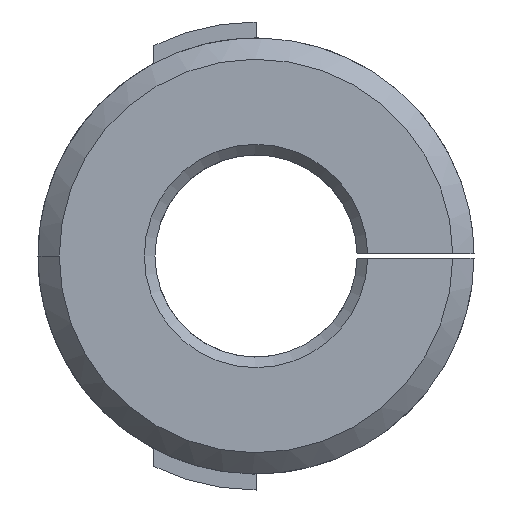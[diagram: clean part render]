
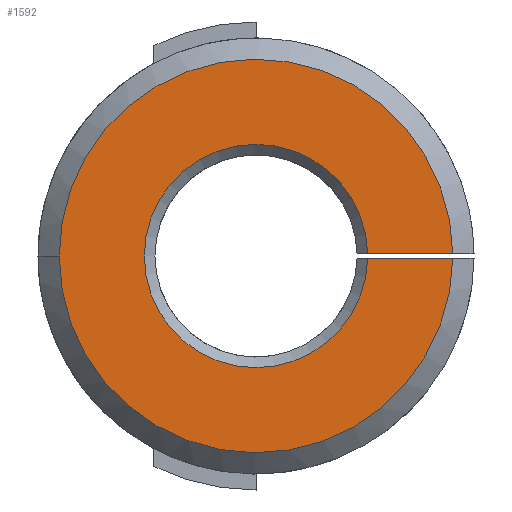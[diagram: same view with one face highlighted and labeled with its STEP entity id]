
A CAD part, front view. The second image highlights one B-rep face of the part: STEP entity #1592.
In plain terms, the highlighted planar face has unit normal (0, -1, 0).
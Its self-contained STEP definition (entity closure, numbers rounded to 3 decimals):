
#16 = VERTEX_POINT ( 'NONE', #286 ) ;
#66 = VECTOR ( 'NONE', #1170, 1000. ) ;
#88 = CARTESIAN_POINT ( 'NONE',  ( 9.25, 0., -0.1 ) ) ;
#95 = DIRECTION ( 'NONE',  ( 1., 0., 0. ) ) ;
#190 = EDGE_CURVE ( 'NONE', #305, #16, #1474, .T. ) ;
#232 = AXIS2_PLACEMENT_3D ( 'NONE', #696, #1579, #1086 ) ;
#246 = EDGE_LOOP ( 'NONE', ( #658, #1404, #800, #1091, #745 ) ) ;
#286 = CARTESIAN_POINT ( 'NONE',  ( -9.25, 0., 0. ) ) ;
#305 = VERTEX_POINT ( 'NONE', #1533 ) ;
#391 = EDGE_CURVE ( 'NONE', #509, #305, #448, .T. ) ;
#423 = PLANE ( 'NONE',  #1037 ) ;
#430 = CIRCLE ( 'NONE', #232, 5.25 ) ;
#448 = LINE ( 'NONE', #1283, #66 ) ;
#509 = VERTEX_POINT ( 'NONE', #1581 ) ;
#525 = FACE_OUTER_BOUND ( 'NONE', #246, .T. ) ;
#551 = CIRCLE ( 'NONE', #1391, 9.25 ) ;
#562 = CARTESIAN_POINT ( 'NONE',  ( 0., 0., 0. ) ) ;
#643 = AXIS2_PLACEMENT_3D ( 'NONE', #1232, #728, #95 ) ;
#658 = ORIENTED_EDGE ( 'NONE', *, *, #391, .T. ) ;
#677 = CARTESIAN_POINT ( 'NONE',  ( 0., 0., 0. ) ) ;
#696 = CARTESIAN_POINT ( 'NONE',  ( 0., 0., 0. ) ) ;
#698 = DIRECTION ( 'NONE',  ( 0., -1., 0. ) ) ;
#723 = CARTESIAN_POINT ( 'NONE',  ( 1., 0., -0.1 ) ) ;
#728 = DIRECTION ( 'NONE',  ( 0., -1., 0. ) ) ;
#731 = DIRECTION ( 'NONE',  ( -1., 0., 0. ) ) ;
#745 = ORIENTED_EDGE ( 'NONE', *, *, #872, .T. ) ;
#800 = ORIENTED_EDGE ( 'NONE', *, *, #807, .T. ) ;
#807 = EDGE_CURVE ( 'NONE', #16, #1210, #551, .T. ) ;
#872 = EDGE_CURVE ( 'NONE', #1218, #509, #430, .T. ) ;
#1037 = AXIS2_PLACEMENT_3D ( 'NONE', #562, #698, #1578 ) ;
#1047 = EDGE_CURVE ( 'NONE', #1210, #1218, #1489, .T. ) ;
#1086 = DIRECTION ( 'NONE',  ( 1., 0., 0. ) ) ;
#1091 = ORIENTED_EDGE ( 'NONE', *, *, #1047, .T. ) ;
#1170 = DIRECTION ( 'NONE',  ( 1., 0., 0. ) ) ;
#1210 = VERTEX_POINT ( 'NONE', #88 ) ;
#1218 = VERTEX_POINT ( 'NONE', #1394 ) ;
#1232 = CARTESIAN_POINT ( 'NONE',  ( 0., 0., 0. ) ) ;
#1283 = CARTESIAN_POINT ( 'NONE',  ( 12., 0., 0.1 ) ) ;
#1391 = AXIS2_PLACEMENT_3D ( 'NONE', #677, #1656, #1664 ) ;
#1394 = CARTESIAN_POINT ( 'NONE',  ( 5.249, 0., -0.1 ) ) ;
#1404 = ORIENTED_EDGE ( 'NONE', *, *, #190, .T. ) ;
#1474 = CIRCLE ( 'NONE', #643, 9.25 ) ;
#1489 = LINE ( 'NONE', #723, #1608 ) ;
#1533 = CARTESIAN_POINT ( 'NONE',  ( 9.25, 0., 0.1 ) ) ;
#1578 = DIRECTION ( 'NONE',  ( 1., 0., 0. ) ) ;
#1579 = DIRECTION ( 'NONE',  ( 0., 1., 0. ) ) ;
#1581 = CARTESIAN_POINT ( 'NONE',  ( 5.249, 0., 0.1 ) ) ;
#1592 = ADVANCED_FACE ( 'NONE', ( #525 ), #423, .T. ) ;
#1608 = VECTOR ( 'NONE', #731, 1000. ) ;
#1656 = DIRECTION ( 'NONE',  ( 0., -1., 0. ) ) ;
#1664 = DIRECTION ( 'NONE',  ( 1., 0., 0. ) ) ;
